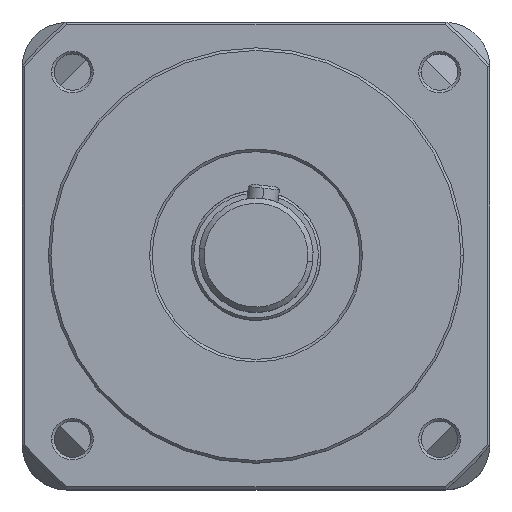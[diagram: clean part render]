
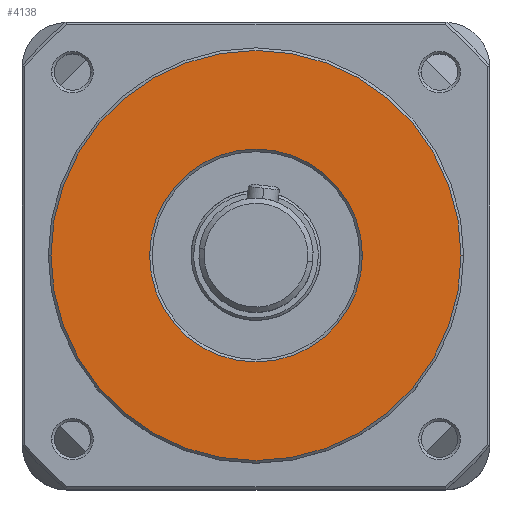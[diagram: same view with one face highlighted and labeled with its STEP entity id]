
A CAD part, top view. The second image highlights one B-rep face of the part: STEP entity #4138.
In plain terms, the highlighted planar face has unit normal (0, 0, 1).
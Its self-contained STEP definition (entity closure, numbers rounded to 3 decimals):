
#97 = AXIS2_PLACEMENT_3D ( 'NONE', #3442, #519, #3912 ) ;
#188 = CIRCLE ( 'NONE', #97, 39.5 ) ;
#376 = CARTESIAN_POINT ( 'NONE',  ( 0., 0., 93.4 ) ) ;
#424 = CARTESIAN_POINT ( 'NONE',  ( 0., 0., 93.4 ) ) ;
#519 = DIRECTION ( 'NONE',  ( 0., 0., 1. ) ) ;
#625 = CIRCLE ( 'NONE', #1596, 20.5 ) ;
#876 = DIRECTION ( 'NONE',  ( 1., 0., 0. ) ) ;
#1082 = CARTESIAN_POINT ( 'NONE',  ( 20.5, 0., 93.4 ) ) ;
#1414 = DIRECTION ( 'NONE',  ( 0., 0., 1. ) ) ;
#1596 = AXIS2_PLACEMENT_3D ( 'NONE', #2833, #6259, #3321 ) ;
#1737 = AXIS2_PLACEMENT_3D ( 'NONE', #4700, #5697, #2777 ) ;
#2272 = PLANE ( 'NONE',  #1737 ) ;
#2317 = VERTEX_POINT ( 'NONE', #4187 ) ;
#2499 = ORIENTED_EDGE ( 'NONE', *, *, #6105, .T. ) ;
#2726 = CARTESIAN_POINT ( 'NONE',  ( -20.5, 0., 93.4 ) ) ;
#2777 = DIRECTION ( 'NONE',  ( 1., 0., 0. ) ) ;
#2833 = CARTESIAN_POINT ( 'NONE',  ( 0., 0., 93.4 ) ) ;
#2862 = AXIS2_PLACEMENT_3D ( 'NONE', #376, #3780, #876 ) ;
#3321 = DIRECTION ( 'NONE',  ( 1., 0., 0. ) ) ;
#3442 = CARTESIAN_POINT ( 'NONE',  ( 0., 0., 93.4 ) ) ;
#3503 = EDGE_CURVE ( 'NONE', #6201, #2317, #4449, .T. ) ;
#3780 = DIRECTION ( 'NONE',  ( 0., 0., -1. ) ) ;
#3868 = VERTEX_POINT ( 'NONE', #1082 ) ;
#3912 = DIRECTION ( 'NONE',  ( 1., 0., 0. ) ) ;
#4138 = ADVANCED_FACE ( 'NONE', ( #4443, #5317 ), #2272, .T. ) ;
#4182 = CIRCLE ( 'NONE', #2862, 20.5 ) ;
#4187 = CARTESIAN_POINT ( 'NONE',  ( -39.5, 0., 93.4 ) ) ;
#4379 = EDGE_CURVE ( 'NONE', #4716, #3868, #625, .T. ) ;
#4443 = FACE_BOUND ( 'NONE', #5003, .T. ) ;
#4449 = CIRCLE ( 'NONE', #5029, 39.5 ) ;
#4700 = CARTESIAN_POINT ( 'NONE',  ( 0., 0., 93.4 ) ) ;
#4716 = VERTEX_POINT ( 'NONE', #2726 ) ;
#5003 = EDGE_LOOP ( 'NONE', ( #5009, #5467 ) ) ;
#5009 = ORIENTED_EDGE ( 'NONE', *, *, #5918, .T. ) ;
#5029 = AXIS2_PLACEMENT_3D ( 'NONE', #424, #1414, #5966 ) ;
#5317 = FACE_OUTER_BOUND ( 'NONE', #5717, .T. ) ;
#5467 = ORIENTED_EDGE ( 'NONE', *, *, #4379, .T. ) ;
#5697 = DIRECTION ( 'NONE',  ( 0., 0., 1. ) ) ;
#5717 = EDGE_LOOP ( 'NONE', ( #2499, #6117 ) ) ;
#5918 = EDGE_CURVE ( 'NONE', #3868, #4716, #4182, .T. ) ;
#5965 = CARTESIAN_POINT ( 'NONE',  ( 39.5, 0., 93.4 ) ) ;
#5966 = DIRECTION ( 'NONE',  ( 1., 0., 0. ) ) ;
#6105 = EDGE_CURVE ( 'NONE', #2317, #6201, #188, .T. ) ;
#6117 = ORIENTED_EDGE ( 'NONE', *, *, #3503, .T. ) ;
#6201 = VERTEX_POINT ( 'NONE', #5965 ) ;
#6259 = DIRECTION ( 'NONE',  ( 0., 0., -1. ) ) ;
